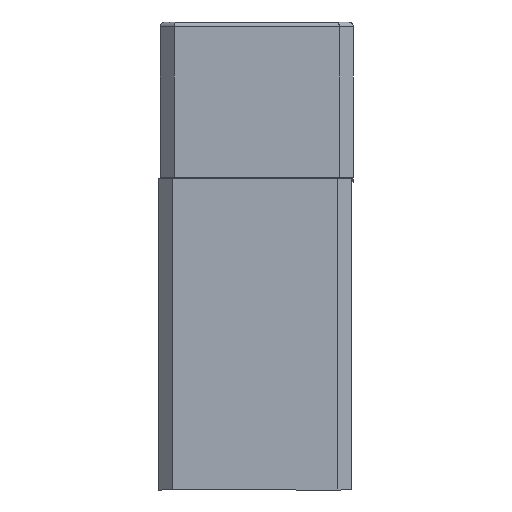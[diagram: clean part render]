
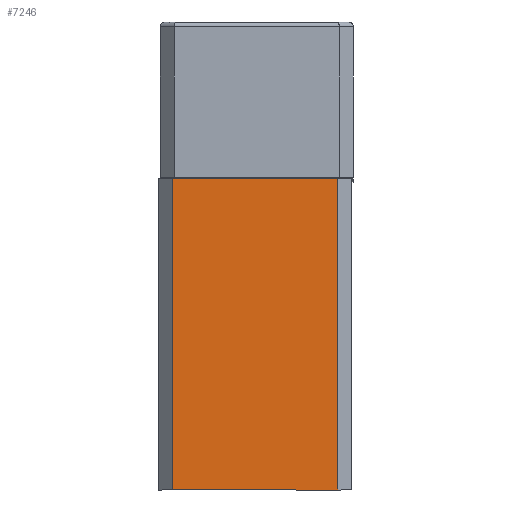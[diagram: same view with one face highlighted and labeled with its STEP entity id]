
A CAD part, left-side view. The second image highlights one B-rep face of the part: STEP entity #7246.
In plain terms, the highlighted planar face has unit normal (-1, 0, 0).
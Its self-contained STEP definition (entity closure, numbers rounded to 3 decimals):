
#3266 = DIRECTION ( 'NONE',  ( 0., 0., -1. ) ) ;
#4165 = CARTESIAN_POINT ( 'NONE',  ( -32.75, 8.75, -33. ) ) ;
#4221 = DIRECTION ( 'NONE',  ( 0., -1., 0. ) ) ;
#4969 = CARTESIAN_POINT ( 'NONE',  ( -32.75, 10.25, -33. ) ) ;
#5235 = FACE_OUTER_BOUND ( 'NONE', #11417, .T. ) ;
#5260 = PLANE ( 'NONE',  #20420 ) ;
#6126 = LINE ( 'NONE', #28369, #25948 ) ;
#7246 = ADVANCED_FACE ( 'NONE', ( #5235 ), #5260, .T. ) ;
#8211 = DIRECTION ( 'NONE',  ( -1., 0., 0. ) ) ;
#10848 = CARTESIAN_POINT ( 'NONE',  ( -32.75, 8.75, 0. ) ) ;
#11206 = VERTEX_POINT ( 'NONE', #10848 ) ;
#11417 = EDGE_LOOP ( 'NONE', ( #20850, #19189, #26256, #28803 ) ) ;
#11732 = CARTESIAN_POINT ( 'NONE',  ( -32.75, -8.75, 0. ) ) ;
#13980 = LINE ( 'NONE', #35840, #22403 ) ;
#14165 = EDGE_CURVE ( 'NONE', #35661, #22167, #6126, .T. ) ;
#15183 = CARTESIAN_POINT ( 'NONE',  ( -32.75, 8.75, -33. ) ) ;
#18584 = VERTEX_POINT ( 'NONE', #4165 ) ;
#19189 = ORIENTED_EDGE ( 'NONE', *, *, #29941, .T. ) ;
#20420 = AXIS2_PLACEMENT_3D ( 'NONE', #4969, #8211, #40369 ) ;
#20850 = ORIENTED_EDGE ( 'NONE', *, *, #30743, .F. ) ;
#22167 = VERTEX_POINT ( 'NONE', #41077 ) ;
#22403 = VECTOR ( 'NONE', #4221, 1000. ) ;
#22873 = LINE ( 'NONE', #25994, #25801 ) ;
#25801 = VECTOR ( 'NONE', #32516, 1000. ) ;
#25948 = VECTOR ( 'NONE', #3266, 1000. ) ;
#25994 = CARTESIAN_POINT ( 'NONE',  ( -32.75, 10.25, -33. ) ) ;
#26256 = ORIENTED_EDGE ( 'NONE', *, *, #30723, .T. ) ;
#28369 = CARTESIAN_POINT ( 'NONE',  ( -32.75, -8.75, -16.5 ) ) ;
#28803 = ORIENTED_EDGE ( 'NONE', *, *, #14165, .F. ) ;
#29941 = EDGE_CURVE ( 'NONE', #11206, #18584, #35297, .T. ) ;
#30723 = EDGE_CURVE ( 'NONE', #18584, #22167, #22873, .T. ) ;
#30743 = EDGE_CURVE ( 'NONE', #11206, #35661, #13980, .T. ) ;
#30769 = DIRECTION ( 'NONE',  ( 0., 0., -1. ) ) ;
#32516 = DIRECTION ( 'NONE',  ( 0., -1., 0. ) ) ;
#34838 = VECTOR ( 'NONE', #30769, 1000. ) ;
#35297 = LINE ( 'NONE', #15183, #34838 ) ;
#35661 = VERTEX_POINT ( 'NONE', #11732 ) ;
#35840 = CARTESIAN_POINT ( 'NONE',  ( -32.75, 0., 0. ) ) ;
#40369 = DIRECTION ( 'NONE',  ( 0., 0., 1. ) ) ;
#41077 = CARTESIAN_POINT ( 'NONE',  ( -32.75, -8.75, -33. ) ) ;
